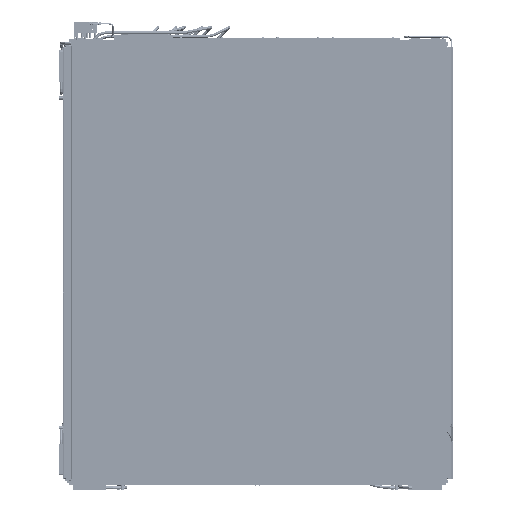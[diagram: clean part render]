
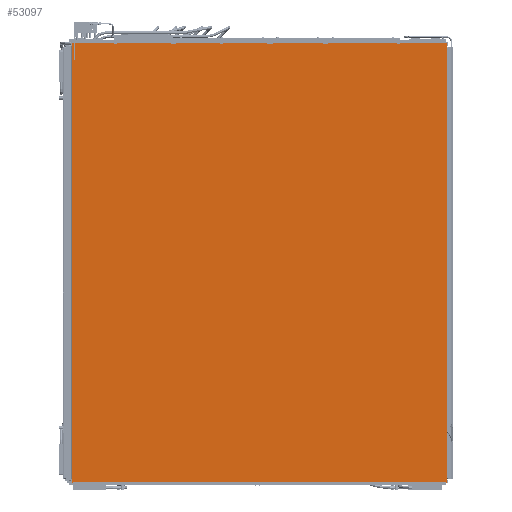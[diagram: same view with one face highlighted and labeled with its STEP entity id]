
A CAD part, front view. The second image highlights one B-rep face of the part: STEP entity #53097.
In plain terms, the highlighted planar face has unit normal (0, -1, 0).
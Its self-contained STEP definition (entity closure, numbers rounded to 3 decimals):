
#53097=ADVANCED_FACE('',(#74571),#64453,.T.);
#64453=PLANE('',#271359);
#74571=FACE_OUTER_BOUND('',#91108,.T.);
#91108=EDGE_LOOP('',(#137946,#137947,#137948,#137949));
#137946=ORIENTED_EDGE('',*,*,#208813,.T.);
#137947=ORIENTED_EDGE('',*,*,#208809,.T.);
#137948=ORIENTED_EDGE('',*,*,#208814,.F.);
#137949=ORIENTED_EDGE('',*,*,#208815,.T.);
#179930=VERTEX_POINT('',#410639);
#179931=VERTEX_POINT('',#410640);
#179934=VERTEX_POINT('',#410648);
#179935=VERTEX_POINT('',#410650);
#208809=EDGE_CURVE('',#179930,#179931,#233124,.T.);
#208813=EDGE_CURVE('',#179934,#179930,#233128,.T.);
#208814=EDGE_CURVE('',#179935,#179931,#233129,.T.);
#208815=EDGE_CURVE('',#179935,#179934,#233130,.T.);
#233124=LINE('',#410638,#250230);
#233128=LINE('',#410647,#250234);
#233129=LINE('',#410649,#250235);
#233130=LINE('',#410651,#250236);
#250230=VECTOR('',#319163,1.);
#250234=VECTOR('',#319169,1.);
#250235=VECTOR('',#319170,1.);
#250236=VECTOR('',#319171,1.);
#271359=AXIS2_PLACEMENT_3D('',#410652,#319172,#319173);
#319163=DIRECTION('',(1.,0.,0.));
#319169=DIRECTION('',(0.,0.,-1.));
#319170=DIRECTION('',(0.,0.,-1.));
#319171=DIRECTION('',(-1.,0.,0.));
#319172=DIRECTION('',(0.,-1.,0.));
#319173=DIRECTION('',(0.,0.,1.));
#410638=CARTESIAN_POINT('',(-375.2,4167.5,4090.));
#410639=CARTESIAN_POINT('',(-1435.7,4167.5,4090.));
#410640=CARTESIAN_POINT('',(685.3,4167.5,4090.));
#410647=CARTESIAN_POINT('',(-1435.7,4167.5,6577.));
#410648=CARTESIAN_POINT('',(-1435.7,4167.5,6577.));
#410649=CARTESIAN_POINT('',(685.3,4167.5,6577.));
#410650=CARTESIAN_POINT('',(685.3,4167.5,6577.));
#410651=CARTESIAN_POINT('',(-375.2,4167.5,6577.));
#410652=CARTESIAN_POINT('',(-375.2,4167.5,6577.));
